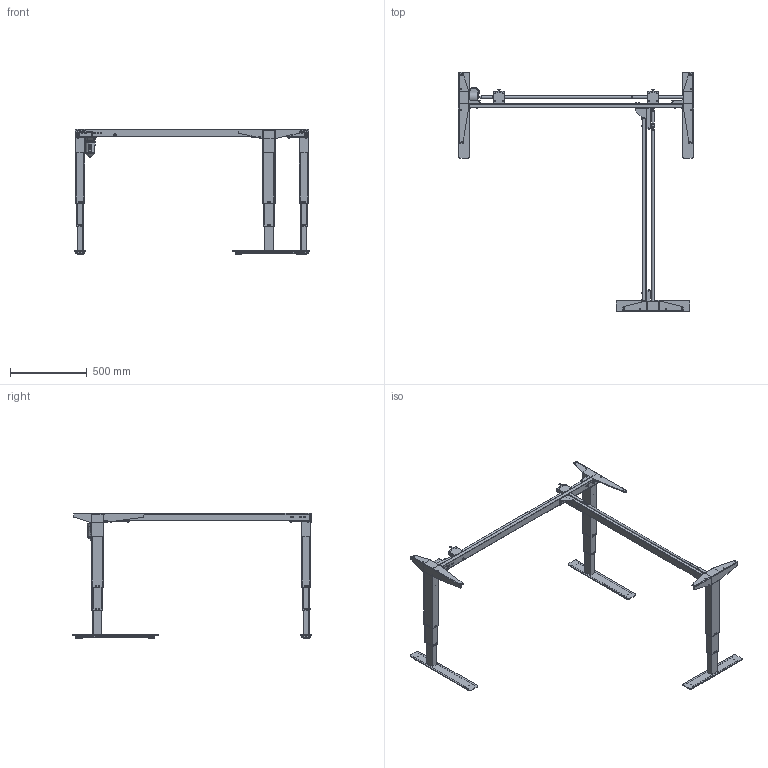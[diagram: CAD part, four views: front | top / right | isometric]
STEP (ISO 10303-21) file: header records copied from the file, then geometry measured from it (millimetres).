
FILE_DESCRIPTION (( 'STEP AP203' ), '1' );
FILE_NAME ('Tech-draw_501-37_XX152-154A.STEP', '2019-09-25T11:49:44', ( '' ), ( '' ), 'SwSTEP 2.0', 'SolidWorks 2018', '' );
FILE_SCHEMA (( 'CONFIG_CONTROL_DESIGN' ));
Length unit declared in the file: millimetre
Products named in the file (56): 341800_black; 147210_black; 348720_shell view; 344910; 138760_black; 138790_black1; 138750_black; 147240_black1; 140320_152; 140330_152; 324520_black; Tech-draw_501-37_XX152-154A; 344080; 149250_501-37 XB152-154A; 344850; 344860_shell view; 341140_shell view; 138920_152; 341120; 341150_shell view; 140140_152 shell view; 349810; 147220_black; 344430_black; 341180_shell view; 147230_black1; 352610; 341220; 144260_132; 140150_shell view; 146260; 340760; 348990; 138780_black; 138800_black1; 340560; 341170_shell view; 350040; 134920_black1; 332570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
Assembly tree (113 placements, depth 6):
  Tech-draw_501-37_XX152-154A
    149250_501-37 XB152-154A
      140140_152 shell view
        140330_152
          345230_152
          340580  x2
        140320_152
          138920_152
            344250_152
            340560
            341220
        140150_shell view  x2
          344910
      138760_black
        148070_black1
          341130
          341180_shell view
          348720_shell view
        138780_black
          138800_black1
            341150_shell view
            344070_shell view
            344080
          134950_black1
            341140_shell view
          341800_black  x4
        341800_black  x4
        324520_black  x2
        344430_black
        352610
      138750_black
        134920_black1
          341120
          341170_shell view
          340540_shell view
        138770_black
          138790_black1
            341150_shell view
            344070_shell view
            344080
          134950_black1
            341140_shell view
          341800_black  x4
        341800_black  x4
        324520_black  x2
      147210_black
        147230_black1
          341120
          344860_shell view
          340540_shell view
        147220_black
          147240_black1
            341150_shell view
            344840_shell view
            344850
          134950_black1
            341140_shell view
          341800_black  x4
        341800_black  x4
        324520_black  x2
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Bounding box: 1529 x 1558.6 x 817 mm (x, y, z)
Volume: 4303176.7 mm3; surface area: 4069685.6 mm2
Topology: 90 solids, 90 shells, 5701 faces, 14767 edges, 9341 vertices
Faces by surface type: plane 3249, cylinder 1813, bspline 309, cone 208, torus 122
Full cylindrical faces by diameter (mm): 2.8 x6, 3 x6, 3.5 x1, 4.5 x9, 4.6 x6, 5 x20, 5.5 x2, 6 x22, 6.2 x4, 6.5 x8, 7 x18, 7.5 x2, 7.6 x6, 8 x29, 10 x18, 11.9 x6, 12 x3, 13 x6, 14.3 x4, 15 x6, 16 x4, 17 x1, 18 x3, 20 x2, 37.6 x12, 60 x1
Entity records: 104612 total; most frequent: CARTESIAN_POINT 39949, ORIENTED_EDGE 11986, DIRECTION 11496, EDGE_CURVE 5993, AXIS2_PLACEMENT_3D 4086, VERTEX_POINT 3891, VECTOR 3324, LINE 3324
